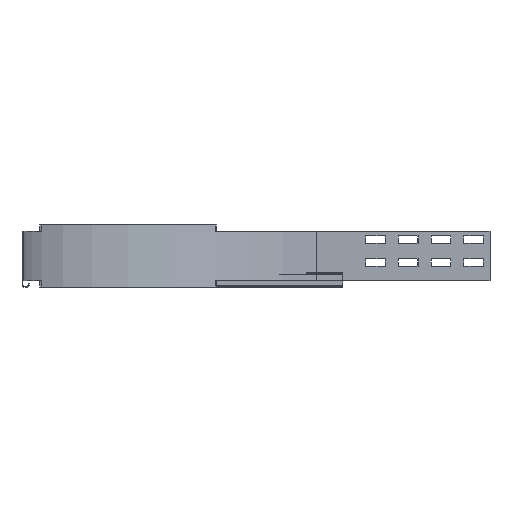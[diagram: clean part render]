
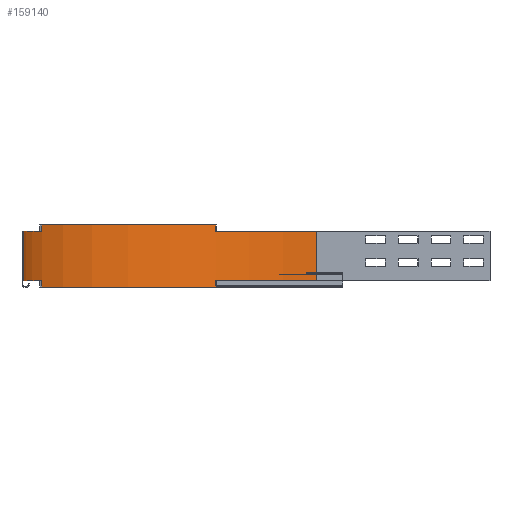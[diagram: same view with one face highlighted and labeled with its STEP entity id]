
A CAD part, left-side view. The second image highlights one B-rep face of the part: STEP entity #159140.
In plain terms, the highlighted cylindrical face has radius 447 mm (diameter 894 mm), a partial arc.
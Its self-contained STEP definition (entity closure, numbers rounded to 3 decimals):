
#136570=CARTESIAN_POINT('',(420.043,-297.117,-50.));
#136580=VERTEX_POINT('',#136570);
#136610=CARTESIAN_POINT('',(0.,-450.,-50.));
#136620=DIRECTION('',(0.,0.,1.));
#136630=DIRECTION('',(1.,0.,0.));
#136640=AXIS2_PLACEMENT_3D('',#136610,#136620,#136630);
#136650=CIRCLE('',#136640,447.);
#136660=CARTESIAN_POINT('',(152.883,-29.957,-50.));
#136670=VERTEX_POINT('',#136660);
#136680=EDGE_CURVE('',#136580,#136670,#136650,.T.);
#138650=CARTESIAN_POINT('',(447.,-450.,-60.));
#138660=VERTEX_POINT('',#138650);
#138710=CARTESIAN_POINT('',(0.,-450.,-60.));
#138720=DIRECTION('',(0.,0.,-1.));
#138730=DIRECTION('',(1.,0.,0.));
#138740=AXIS2_PLACEMENT_3D('',#138710,#138720,#138730);
#138750=CIRCLE('',#138740,447.);
#138760=CARTESIAN_POINT('',(420.043,-297.117,-60.));
#138770=VERTEX_POINT('',#138760);
#138780=EDGE_CURVE('',#138770,#138660,#138750,.T.);
#139190=CARTESIAN_POINT('',(0.,-450.,-145.));
#139200=DIRECTION('',(0.,0.,1.));
#139210=DIRECTION('',(1.,0.,0.));
#139220=AXIS2_PLACEMENT_3D('',#139190,#139200,#139210);
#139230=CIRCLE('',#139220,447.);
#139240=CARTESIAN_POINT('',(420.043,-297.117,-145.));
#139250=VERTEX_POINT('',#139240);
#139260=CARTESIAN_POINT('',(152.883,-29.957,-145.));
#139270=VERTEX_POINT('',#139260);
#139280=EDGE_CURVE('',#139250,#139270,#139230,.T.);
#139610=CARTESIAN_POINT('',(0.,-450.,-135.));
#139620=DIRECTION('',(0.,0.,1.));
#139630=DIRECTION('',(1.,0.,0.));
#139640=AXIS2_PLACEMENT_3D('',#139610,#139620,#139630);
#139650=CIRCLE('',#139640,447.);
#139660=CARTESIAN_POINT('',(152.883,-29.957,-135.));
#139670=VERTEX_POINT('',#139660);
#139680=CARTESIAN_POINT('',(0.,-3.,-135.));
#139690=VERTEX_POINT('',#139680);
#139700=EDGE_CURVE('',#139670,#139690,#139650,.T.);
#148960=CARTESIAN_POINT('',(0.,-3.,0.));
#148970=DIRECTION('',(0.,0.,-1.));
#148980=VECTOR('',#148970,1.);
#148990=LINE('',#148960,#148980);
#149000=CARTESIAN_POINT('',(0.,-3.,-60.));
#149010=VERTEX_POINT('',#149000);
#149020=EDGE_CURVE('',#149010,#139690,#148990,.T.);
#151950=CARTESIAN_POINT('',(447.,-450.,-135.));
#151960=VERTEX_POINT('',#151950);
#151990=CARTESIAN_POINT('',(447.,-450.,0.));
#152000=DIRECTION('',(0.,0.,1.));
#152010=VECTOR('',#152000,1.);
#152020=LINE('',#151990,#152010);
#152030=EDGE_CURVE('',#151960,#138660,#152020,.T.);
#157200=CARTESIAN_POINT('',(420.043,-297.117,-10.));
#157210=DIRECTION('',(0.,0.,1.));
#157220=VECTOR('',#157210,1.);
#157230=LINE('',#157200,#157220);
#157240=EDGE_CURVE('',#138770,#136580,#157230,.T.);
#157370=CARTESIAN_POINT('',(152.883,-29.957,-10.));
#157380=DIRECTION('',(0.,0.,1.));
#157390=VECTOR('',#157380,1.);
#157400=LINE('',#157370,#157390);
#157410=EDGE_CURVE('',#139270,#139670,#157400,.T.);
#157550=CARTESIAN_POINT('',(152.883,-29.957,-60.));
#157560=VERTEX_POINT('',#157550);
#157610=CARTESIAN_POINT('',(152.883,-29.957,-10.));
#157620=DIRECTION('',(0.,0.,1.));
#157630=VECTOR('',#157620,1.);
#157640=LINE('',#157610,#157630);
#157650=EDGE_CURVE('',#157560,#136670,#157640,.T.);
#157810=CARTESIAN_POINT('',(420.043,-297.117,-135.));
#157820=VERTEX_POINT('',#157810);
#157850=CARTESIAN_POINT('',(0.,-450.,-135.));
#157860=DIRECTION('',(0.,0.,1.));
#157870=DIRECTION('',(1.,0.,0.));
#157880=AXIS2_PLACEMENT_3D('',#157850,#157860,#157870);
#157890=CIRCLE('',#157880,447.);
#157900=EDGE_CURVE('',#151960,#157820,#157890,.T.);
#158840=CARTESIAN_POINT('',(0.,-450.,-10.));
#158850=DIRECTION('',(0.,0.,1.));
#158860=DIRECTION('',(1.,0.,0.));
#158870=AXIS2_PLACEMENT_3D('',#158840,#158850,#158860);
#158880=CYLINDRICAL_SURFACE('',#158870,447.);
#158890=ORIENTED_EDGE('',*,*,#139700,.F.);
#158900=ORIENTED_EDGE('',*,*,#149020,.T.);
#158910=CARTESIAN_POINT('',(0.,-450.,-60.));
#158920=DIRECTION('',(0.,0.,-1.));
#158930=DIRECTION('',(1.,0.,0.));
#158940=AXIS2_PLACEMENT_3D('',#158910,#158920,#158930);
#158950=CIRCLE('',#158940,447.);
#158960=EDGE_CURVE('',#149010,#157560,#158950,.T.);
#158970=ORIENTED_EDGE('',*,*,#158960,.F.);
#158980=ORIENTED_EDGE('',*,*,#157650,.F.);
#158990=ORIENTED_EDGE('',*,*,#136680,.T.);
#159000=ORIENTED_EDGE('',*,*,#157240,.T.);
#159010=ORIENTED_EDGE('',*,*,#138780,.F.);
#159020=ORIENTED_EDGE('',*,*,#152030,.T.);
#159030=ORIENTED_EDGE('',*,*,#157900,.F.);
#159040=CARTESIAN_POINT('',(420.043,-297.117,-10.));
#159050=DIRECTION('',(0.,0.,1.));
#159060=VECTOR('',#159050,1.);
#159070=LINE('',#159040,#159060);
#159080=EDGE_CURVE('',#139250,#157820,#159070,.T.);
#159090=ORIENTED_EDGE('',*,*,#159080,.T.);
#159100=ORIENTED_EDGE('',*,*,#139280,.F.);
#159110=ORIENTED_EDGE('',*,*,#157410,.F.);
#159120=EDGE_LOOP('',(#159110,#159100,#159090,#159030,#159020,#159010,
#159000,#158990,#158980,#158970,#158900,#158890));
#159130=FACE_OUTER_BOUND('',#159120,.T.);
#159140=ADVANCED_FACE('',(#159130),#158880,.F.);
